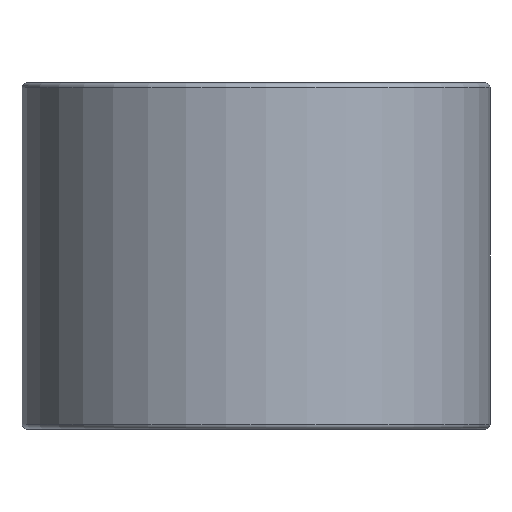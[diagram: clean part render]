
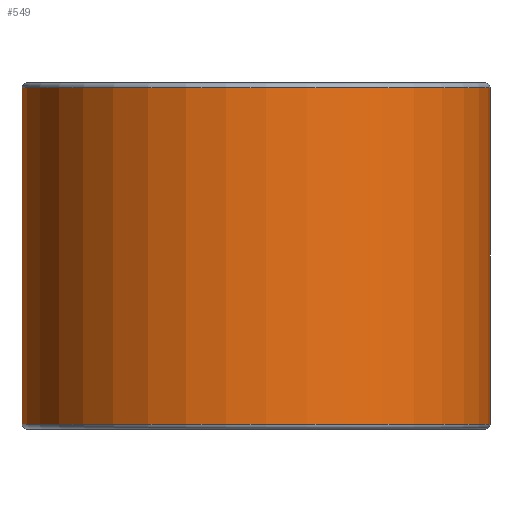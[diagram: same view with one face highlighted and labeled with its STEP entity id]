
A CAD part, front view. The second image highlights one B-rep face of the part: STEP entity #549.
In plain terms, the highlighted cylindrical face has radius 23 mm (diameter 46 mm), a full revolution.
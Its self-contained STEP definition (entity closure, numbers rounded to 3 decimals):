
#549=ADVANCED_FACE('',(#659,#660),#621,.T.);
#621=CYLINDRICAL_SURFACE('',#1428,23.);
#659=FACE_BOUND('',#739,.T.);
#660=FACE_BOUND('',#740,.T.);
#739=EDGE_LOOP('',(#859));
#740=EDGE_LOOP('',(#860));
#859=ORIENTED_EDGE('',*,*,#1215,.T.);
#860=ORIENTED_EDGE('',*,*,#1216,.T.);
#1115=VERTEX_POINT('',#1944);
#1116=VERTEX_POINT('',#1946);
#1215=EDGE_CURVE('',#1115,#1115,#1347,.T.);
#1216=EDGE_CURVE('',#1116,#1116,#1348,.T.);
#1347=CIRCLE('',#1426,23.);
#1348=CIRCLE('',#1427,23.);
#1426=AXIS2_PLACEMENT_3D('',#1943,#1596,#1597);
#1427=AXIS2_PLACEMENT_3D('',#1945,#1598,#1599);
#1428=AXIS2_PLACEMENT_3D('',#1947,#1600,#1601);
#1596=DIRECTION('',(0.,0.,-1.));
#1597=DIRECTION('',(1.,0.,0.));
#1598=DIRECTION('',(0.,0.,1.));
#1599=DIRECTION('',(1.,0.,0.));
#1600=DIRECTION('',(0.,0.,-1.));
#1601=DIRECTION('',(-1.,0.,0.));
#1943=CARTESIAN_POINT('',(0.,0.,33.5));
#1944=CARTESIAN_POINT('',(23.,0.,33.5));
#1945=CARTESIAN_POINT('',(0.,0.,0.5));
#1946=CARTESIAN_POINT('',(23.,0.,0.5));
#1947=CARTESIAN_POINT('',(0.,0.,34.));
